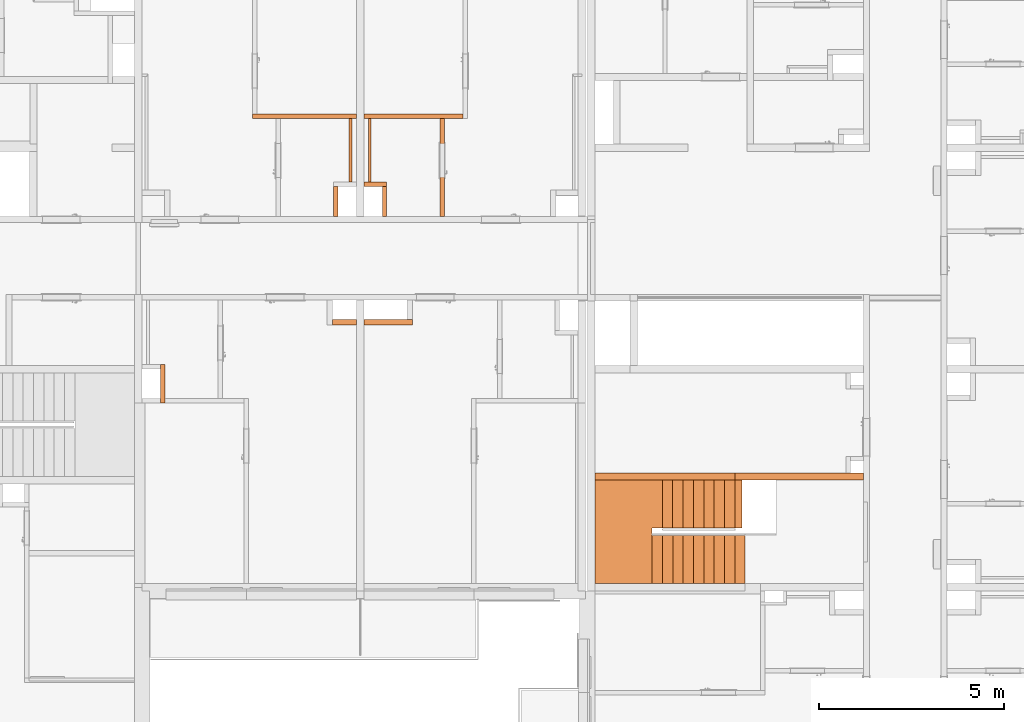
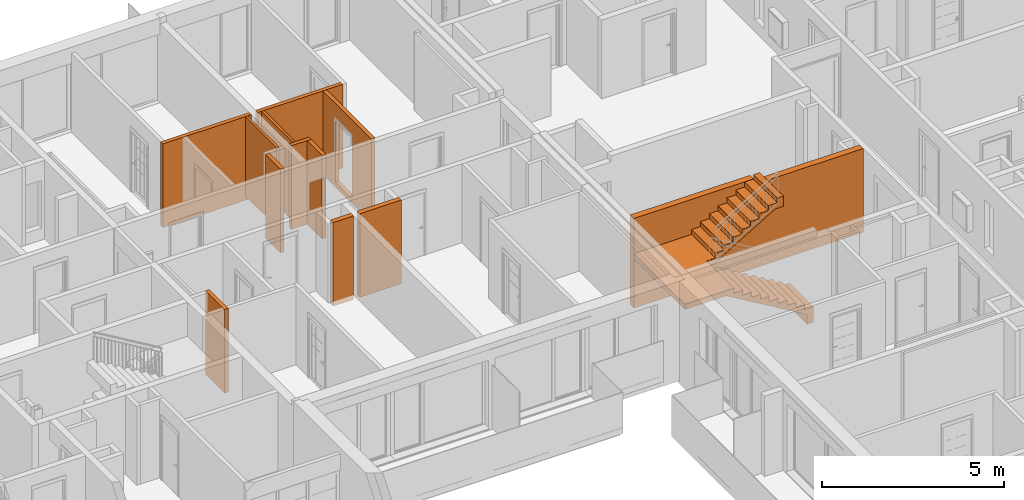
# One storey, part 60 of 67: 13 proxies, 1 opening.
"""IFC2X3 building model written with IfcOpenShell, lengths in millimetres."""

from ifc_helpers import new_model, entity, si_unit, converted_unit, derived_unit, money_unit, direction, frame, origin_with_axes, origin_2d_with_axis, place, context, subcontext, project, spatial, rectangle, extrude, faceted_brep, material, material_list, type_object, element, save


model = new_model("IFC2X3")

# Units and contexts
model_context = context("Model", 3, precision=0.01, world=origin_with_axes(), true_north=direction((0.34421633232, 0.938890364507)))
body_context = subcontext(model_context, "Body", "Model", "MODEL_VIEW")
ifc_project = project(units=[si_unit("LENGTHUNIT", "METRE", prefix="MILLI"), si_unit("AREAUNIT", "SQUARE_METRE"), si_unit("VOLUMEUNIT", "CUBIC_METRE"), converted_unit("PLANEANGLEUNIT", "DEGREE", entity("IfcPlaneAngleMeasure", 0.0174532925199), si_unit("PLANEANGLEUNIT", "RADIAN"), dimensions=[0, 0, 0, 0, 0, 0, 0]), si_unit("SOLIDANGLEUNIT", "STERADIAN"), money_unit("USD"), converted_unit("TIMEUNIT", "Year", entity("IfcTimeMeasure", 31556926.0), si_unit("TIMEUNIT", "SECOND"), dimensions=[0, 0, 1, 0, 0, 0, 0]), si_unit("MASSUNIT", "GRAM", prefix="KILO"), si_unit("THERMODYNAMICTEMPERATUREUNIT", "DEGREE_CELSIUS"), si_unit("LUMINOUSINTENSITYUNIT", "LUMEN"), si_unit("ENERGYUNIT", "JOULE", prefix="MEGA"), derived_unit("THERMALCONDUCTANCEUNIT", [(si_unit("POWERUNIT", "WATT"), 1), (si_unit("LENGTHUNIT", "METRE"), -1), (si_unit("THERMODYNAMICTEMPERATUREUNIT", "KELVIN"), -1)]), derived_unit("SPECIFICHEATCAPACITYUNIT", [(si_unit("ENERGYUNIT", "JOULE"), 1), (si_unit("MASSUNIT", "GRAM", prefix="KILO"), -1), (si_unit("THERMODYNAMICTEMPERATUREUNIT", "KELVIN"), -1)]), derived_unit("MASSDENSITYUNIT", [(si_unit("MASSUNIT", "GRAM", prefix="KILO"), 1), (si_unit("VOLUMEUNIT", "CUBIC_METRE"), -1)])], contexts=[model_context])

# Site, building, storey
site_placement = place(None, origin_with_axes())
site = spatial("IfcSite", under=ifc_project, at=site_placement, Name="USTRONIE MORSKIE", CompositionType="ELEMENT")
building_placement = place(site_placement, origin_with_axes())
building = spatial("IfcBuilding", under=site, at=building_placement, Name="Budynek", CompositionType="ELEMENT")
storey_placement = place(building_placement, frame((0.0, 0.0, 4000.0), z_axis=(0.0, 0.0, 1.0), x_axis=(1.0, 0.0, 0.0)))
storey = spatial("IfcBuildingStorey", under=building, at=storey_placement, Name="PIĘTRO 1", CompositionType="ELEMENT", Elevation=4000.0)

# Proxy
ifc_material_1 = material(Name="Bloczki silikatowe")
building_element_proxy_type_1 = type_object("IfcBuildingElementProxyType", Name="Bloczki silikatowe 120", PredefinedType="NOTDEFINED")
proxy_1_placement = place(storey_placement, frame((402317.920919, 739651.199937, -160.0), z_axis=(0.0, 0.0, 1.0), x_axis=(1.0, 0.0, 0.0)))
element("IfcBuildingElementProxy", 1, at=proxy_1_placement, inside=storey, type_object=building_element_proxy_type_1, material=ifc_material_1, Name="SW-04", context=body_context, shape_type="Brep", body=[
    faceted_brep([(2790.00713284, 59.9999999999, 0.0), (2790.00713284, -59.9999999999, 0.0), (100.0, -59.9999999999, 0.0), (100.0, 59.9999999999, 0.0), (2790.00713284, 59.9999999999, 2800.0), (2790.00713284, -59.9999999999, 2800.0), (100.0, -59.9999999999, 2800.0), (100.0, 59.9999999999, 2800.0)], [[[0, 1, 2, 3]], [[1, 0, 4, 5]], [[1, 5, 6, 2]], [[7, 3, 2, 6]], [[4, 0, 3, 7]], [[5, 4, 7, 6]]]),
])

# Proxy, opening
proxy_2_placement = place(storey_placement, frame((404537.920919, 739651.199937, -160.0), z_axis=(0.0, 0.0, 1.0), x_axis=(0.0, -1.0, 0.0)))
proxy_2 = element("IfcBuildingElementProxy", 2, at=proxy_2_placement, inside=storey, type_object=building_element_proxy_type_1, material=ifc_material_1, Name="SW-04", context=body_context, shape_type="Brep", body=[
    faceted_brep([(2720.00090117, 60.0, 0.0), (2720.00090117, -60.0, 0.0), (59.9999999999, -60.0, 0.0), (59.9999999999, 60.0, 0.0), (2720.00090117, 60.0, 2800.0), (2720.00090117, -60.0, 2800.0), (59.9999999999, -60.0, 2800.0), (59.9999999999, 60.0, 2800.0)], [[[0, 1, 2, 3]], [[1, 0, 4, 5]], [[1, 5, 6, 2]], [[7, 3, 2, 6]], [[4, 0, 3, 7]], [[5, 4, 7, 6]]]),
])
opening_placement = place(proxy_2_placement, frame((1200.00090117, 0.0, 160.0), z_axis=(0.0, 0.0, 1.0), x_axis=(1.0, 0.0, 0.0)))
element("IfcOpeningElement", 3, at=opening_placement, cuts=proxy_2, Name="Dw.4", context=body_context, shape_type="SweptSolid", body=[
    extrude(rectangle(XDim=920.0, YDim=2070.0, at=origin_2d_with_axis()), frame((0.0, -120.0, 1035.0), z_axis=(0.0, -1.0, 0.0), x_axis=(-1.0, 0.0, 0.0)), (0.0, 0.0, -1.0), 360.0),
    extrude(rectangle(XDim=994.0, YDim=2177.0, at=origin_2d_with_axis()), frame((0.0, -60.0, 1088.5), z_axis=(0.0, -1.0, 0.0), x_axis=(-1.0, 0.0, 0.0)), (0.0, 0.0, 1.0), 120.0),
    extrude(rectangle(XDim=994.0, YDim=2177.0, at=origin_2d_with_axis()), frame((0.0, 60.0, 1088.5), z_axis=(0.0, 1.0, 0.0), x_axis=(-1.0, 0.0, 0.0)), (0.0, 0.0, 1.0), 120.0),
])

# Proxies
proxy_3_placement = place(storey_placement, frame((399467.913786, 739651.199937, -160.0), z_axis=(0.0, 0.0, 1.0), x_axis=(1.0, 0.0, 0.0)))
element("IfcBuildingElementProxy", 4, at=proxy_3_placement, inside=storey, type_object=building_element_proxy_type_1, material=ifc_material_1, Name="SW-04", context=body_context, shape_type="Brep", body=[
    faceted_brep([(-60.0, -59.9999999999, 2800.0), (2750.00713284, -59.9999999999, 2800.0), (2750.00713284, 59.9999999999, 2800.0), (-60.0, 59.9999999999, 2800.0), (-60.0, -59.9999999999, 0.0), (2750.00713284, -59.9999999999, 0.0), (2750.00713284, 59.9999999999, 0.0), (-60.0, 59.9999999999, 0.0)], [[[0, 1, 2, 3]], [[4, 5, 1, 0]], [[5, 6, 2, 1]], [[3, 2, 6, 7]], [[3, 7, 4, 0]], [[7, 6, 5, 4]]]),
])
proxy_4_placement = place(storey_placement, frame((402317.920919, 737751.199937, -160.0), z_axis=(0.0, 0.0, 1.0), x_axis=(1.0, 0.0, 0.0)))
element("IfcBuildingElementProxy", 5, at=proxy_4_placement, inside=storey, type_object=building_element_proxy_type_1, material=ifc_material_1, Name="SW-04", context=body_context, shape_type="Brep", body=[
    faceted_brep([(720.0, 120.0, 0.0), (720.0, 0.0, 0.0), (100.0, 0.0, 0.0), (100.0, 120.0, 0.0), (720.0, 120.0, 2800.0), (720.0, 0.0, 2800.0), (100.0, 0.0, 2800.0), (100.0, 120.0, 2800.0)], [[[0, 1, 2, 3]], [[1, 0, 4, 5]], [[1, 5, 6, 2]], [[7, 3, 2, 6]], [[4, 0, 3, 7]], [[5, 4, 7, 6]]]),
])
proxy_5_placement = place(storey_placement, frame((401717.920919, 737751.199937, -160.0), z_axis=(0.0, 0.0, 1.0), x_axis=(0.0, -1.0, 0.0)))
element("IfcBuildingElementProxy", 6, at=proxy_5_placement, inside=storey, type_object=building_element_proxy_type_1, material=ifc_material_1, Name="SW-04", context=body_context, shape_type="Brep", body=[
    faceted_brep([(820.00090117, -120.0, 2800.0), (820.00090117, 0.0, 2800.0), (0.0, 0.0, 2800.0), (0.0, -120.0, 2800.0), (820.00090117, -120.0, 0.0), (820.00090117, 0.0, 0.0), (0.0, 0.0, 0.0), (0.0, -120.0, 0.0)], [[[0, 1, 2, 3]], [[1, 0, 4, 5]], [[1, 5, 6, 2]], [[7, 3, 2, 6]], [[4, 0, 3, 7]], [[5, 4, 7, 6]]]),
])
proxy_6_placement = place(storey_placement, frame((396917.929132, 731891.199132, -160.0), z_axis=(0.0, 0.0, 1.0), x_axis=(-3.11484010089e-05, 0.999999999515, 0.0)))
element("IfcBuildingElementProxy", 7, at=proxy_6_placement, inside=storey, type_object=building_element_proxy_type_1, material=ifc_material_1, Name="SW-04", context=body_context, shape_type="Brep", body=[
    faceted_brep([(1039.99738094, 0.0, 0.0), (1039.98990532, -120.0, 0.0), (-0.00373780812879, -120.0, 0.0), (0.0, 0.0, 0.0), (1039.99738094, 0.0, 2800.0), (1039.98990532, -120.0, 2800.0), (-0.00373780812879, -120.0, 2800.0), (0.0, 0.0, 2800.0)], [[[0, 1, 2, 3]], [[1, 0, 4, 5]], [[1, 5, 6, 2]], [[7, 3, 2, 6]], [[4, 0, 3, 7]], [[5, 4, 7, 6]]]),
])
proxy_7_placement = place(storey_placement, frame((402917.920919, 737751.199937, -160.0), z_axis=(0.0, 0.0, 1.0), x_axis=(0.0, -1.0, 0.0)))
element("IfcBuildingElementProxy", 8, at=proxy_7_placement, inside=storey, type_object=building_element_proxy_type_1, material=ifc_material_1, Name="SW-04", context=body_context, shape_type="Brep", body=[
    faceted_brep([(820.00090117, 120.0, 0.0), (820.00090117, 0.0, 0.0), (0.0, 0.0, 0.0), (0.0, 120.0, 0.0), (820.00090117, 120.0, 2800.0), (820.00090117, 0.0, 2800.0), (0.0, 0.0, 2800.0), (0.0, 120.0, 2800.0)], [[[0, 1, 2, 3]], [[1, 0, 4, 5]], [[1, 5, 6, 2]], [[7, 3, 2, 6]], [[4, 0, 3, 7]], [[5, 4, 7, 6]]]),
])
ifc_material_2 = material(Name="Beton konstrukcyjny B25")
ifc_material_3 = material(Name="Płytki podłogowe")
ifc_material_list_1 = material_list([ifc_material_2, ifc_material_2, ifc_material_2, ifc_material_3, ifc_material_3, ifc_material_3, ifc_material_3, ifc_material_3, ifc_material_3, ifc_material_3, ifc_material_3, ifc_material_3, ifc_material_3, ifc_material_3, ifc_material_3, ifc_material_3, ifc_material_3, ifc_material_3, ifc_material_3, ifc_material_3])
building_element_proxy_type_2 = type_object("IfcBuildingElementProxyType", Name="Typ schodów", PredefinedType="NOTDEFINED")
proxy_8_placement = place(storey_placement, frame((412739.660049, 727001.198948, 0.0), z_axis=(0.0, 0.0, 1.0), x_axis=(-1.0, 0.0, 0.0)))
element("IfcBuildingElementProxy", 9, at=proxy_8_placement, inside=storey, type_object=building_element_proxy_type_2, material=ifc_material_list_1, Name="SCH2", context=body_context, shape_type="Brep", body=[
    faceted_brep([(2520.00002021, -1299.99999404, 1485.0), (2520.00002021, 0.0, 1485.0), (2240.0, 0.0, 1485.0), (2240.0, -1300.0, 1485.0), (2520.00002021, -1299.99999404, 1491.66666667), (2520.00002021, 0.0, 1491.66666667), (2520.00002021, 0.0, 1345.35030449), (2426.66666667, 0.0, 1289.7947369), (2333.33333333, 0.0, 1234.23918135), (2240.0, 0.0, 1178.68362579), (2146.66666667, 0.0, 1123.12807024), (2053.33333333, 0.0, 1067.57251468), (1960.0, 0.0, 1012.01695913), (1866.66666667, 0.0, 956.46140357), (1773.33333333, 0.0, 900.905848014), (1680.0, 0.0, 845.350292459), (1586.66666667, 0.0, 789.794736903), (1493.33333333, 0.0, 734.239181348), (1400.0, 0.0, 678.683625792), (1306.66666667, 0.0, 623.128070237), (1213.33333333, 0.0, 567.572514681), (1120.0, 0.0, 512.016959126), (1026.66666667, 0.0, 456.46140357), (933.333333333, 0.0, 400.905848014), (840.0, 0.0, 345.350292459), (746.666666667, 0.0, 289.794736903), (653.333333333, 0.0, 234.239181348), (560.0, 0.0, 178.683625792), (466.666666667, 0.0, 123.128070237), (373.333333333, 0.0, 67.5725146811), (280.0, 0.0, 12.0169591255), (200.0, 0.0, -35.6020884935), (200.0, 0.0, -360.0), (0.0, 0.0, -360.0), (0.0, 0.0, -154.649707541), (0.0, 0.0, 151.666666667), (280.0, 0.0, 151.666666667), (280.0, 0.0, 318.333333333), (560.0, 0.0, 318.333333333), (560.0, 0.0, 485.0), (840.0, 0.0, 485.0), (840.0, 0.0, 651.666666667), (1120.0, 0.0, 651.666666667), (1120.0, 0.0, 818.333333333), (1400.0, 0.0, 818.333333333), (1400.0, 0.0, 985.0), (1680.0, 0.0, 985.0), (1680.0, 0.0, 1151.66666667), (1960.0, 0.0, 1151.66666667), (1960.0, 0.0, 1318.33333333), (2240.0, 0.0, 1318.33333333), (2765.81150867, 0.0, 1491.66666667), (2240.0, -1300.0, 1318.33333333), (1960.0, -1300.0, 1318.33333333), (1960.0, -1300.0, 1151.66666667), (1680.0, -1300.0, 1151.66666667), (1680.0, -1300.0, 985.0), (1400.0, -1300.0, 985.0), (1400.0, -1300.0, 818.333333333), (1120.0, -1300.0, 818.333333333), (1120.0, -1300.0, 651.666666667), (840.0, -1300.0, 651.666666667), (840.0, -1300.0, 485.0), (560.0, -1300.0, 485.0), (560.0, -1300.0, 318.333333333), (280.0, -1300.0, 318.333333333), (280.0, -1300.0, 151.666666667), (0.0, -1300.0, 151.666666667), (0.0, -1300.0, -154.649707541), (0.0, -1300.0, -360.0), (200.0, -1300.0, -360.0), (200.0, -1300.0, -35.6020884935), (280.0, -1300.0, 12.0169591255), (373.333333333, -1300.0, 67.5725146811), (466.666666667, -1300.0, 123.128070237), (560.0, -1300.0, 178.683625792), (653.333333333, -1300.0, 234.239181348), (746.666666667, -1300.0, 289.794736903), (840.0, -1300.0, 345.350292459), (933.333333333, -1300.0, 400.905848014), (1026.66666667, -1300.0, 456.46140357), (1120.0, -1300.0, 512.016959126), (1213.33333333, -1300.0, 567.572514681), (1306.66666667, -1300.0, 623.128070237), (1400.0, -1300.0, 678.683625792), (1493.33333333, -1300.0, 734.239181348), (1586.66666667, -1300.0, 789.794736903), (1680.0, -1300.0, 845.350292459), (1773.33333333, -1300.0, 900.905848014), (1866.66666667, -1300.0, 956.46140357), (1960.0, -1300.0, 1012.01695913), (2053.33333333, -1300.0, 1067.57251468), (2146.66666667, -1300.0, 1123.12807024), (2240.0, -1300.0, 1178.68362579), (2333.33333333, -1300.0, 1234.23918135), (2426.66666667, -1300.0, 1289.7947369), (2520.00002021, -1299.99999404, 1345.35030449), (2765.81150867, -1299.99999404, 1491.66666667)], [[[0, 1, 2, 3]], [[1, 0, 4, 5]], [[6, 7, 8, 9, 10, 11, 12, 13, 14, 15, 16, 17, 18, 19, 20, 21, 22, 23, 24, 25, 26, 27, 28, 29, 30, 31, 32, 33, 34, 35, 36, 37, 38, 39, 40, 41, 42, 43, 44, 45, 46, 47, 48, 49, 50, 2, 1, 5, 51]], [[52, 3, 2, 50]], [[0, 3, 52, 53, 54, 55, 56, 57, 58, 59, 60, 61, 62, 63, 64, 65, 66, 67, 68, 69, 70, 71, 72, 73, 74, 75, 76, 77, 78, 79, 80, 81, 82, 83, 84, 85, 86, 87, 88, 89, 90, 91, 92, 93, 94, 95, 96, 97, 4]], [[51, 5, 4, 97]], [[96, 95, 7, 6, 51, 97]], [[95, 94, 8, 7]], [[94, 93, 9, 8]], [[93, 92, 10, 9]], [[92, 91, 11, 10]], [[91, 90, 12, 11]], [[90, 89, 13, 12]], [[89, 88, 14, 13]], [[88, 87, 15, 14]], [[87, 86, 16, 15]], [[86, 85, 17, 16]], [[85, 84, 18, 17]], [[84, 83, 19, 18]], [[83, 82, 20, 19]], [[82, 81, 21, 20]], [[81, 80, 22, 21]], [[80, 79, 23, 22]], [[79, 78, 24, 23]], [[78, 77, 25, 24]], [[77, 76, 26, 25]], [[76, 75, 27, 26]], [[75, 74, 28, 27]], [[74, 73, 29, 28]], [[73, 72, 30, 29]], [[72, 71, 31, 30]], [[32, 31, 71, 70]], [[32, 70, 69, 33]], [[69, 68, 34, 33]], [[35, 34, 68, 67]], [[36, 35, 67, 66]], [[66, 65, 37, 36]], [[38, 37, 65, 64]], [[64, 63, 39, 38]], [[40, 39, 63, 62]], [[62, 61, 41, 40]], [[42, 41, 61, 60]], [[60, 59, 43, 42]], [[44, 43, 59, 58]], [[58, 57, 45, 44]], [[46, 45, 57, 56]], [[56, 55, 47, 46]], [[48, 47, 55, 54]], [[54, 53, 49, 48]], [[50, 49, 53, 52]]]),
    faceted_brep([(2275.92762177, -1500.00000596, 1491.66666667), (2275.92762177, -1500.00000596, 1651.66666667), (2521.73913043, -1500.00000596, 1651.66666667), (2521.73913043, -1500.00000596, 1491.66666667), (2275.92762177, -2800.0, 1651.66666667), (2275.92762177, -2800.0, 1491.66666667), (4071.73911851, -2800.0, 1651.66666667), (4071.73911851, 0.0, 1651.66666667), (2520.00002021, 0.0, 1651.66666667), (2520.00002021, -1299.99999404, 1651.66666667), (2521.73913043, -1299.99999404, 1651.66666667), (2521.73913043, -1299.99999404, 1491.66666667), (2520.00002021, -1299.99999404, 1491.66666667), (2520.00002021, 0.0, 1491.66666667), (4071.73911851, 0.0, 1491.66666667), (4071.73911851, -2800.0, 1491.66666667)], [[[0, 1, 2, 3]], [[4, 1, 0, 5]], [[1, 4, 6, 7, 8, 9, 10, 2]], [[10, 11, 3, 2]], [[5, 0, 3, 11, 12, 13, 14, 15]], [[4, 5, 15, 6]], [[6, 15, 14, 7]], [[7, 14, 13, 8]], [[8, 13, 12, 9]], [[9, 12, 11, 10]]]),
    faceted_brep([(375.072463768, -2800.0, 2623.12807024), (346.727621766, -2800.0, 2640.0), (346.727621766, -1500.0, 2640.0), (375.072463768, -1500.0, 2623.12807024), (81.7391304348, -2800.0, 2640.0), (468.405797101, -2800.0, 2567.57251468), (561.739130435, -2800.0, 2512.01695913), (655.072463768, -2800.0, 2456.46140357), (748.405797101, -2800.0, 2400.90584801), (841.739130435, -2800.0, 2345.35029246), (935.072463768, -2800.0, 2289.7947369), (1028.4057971, -2800.0, 2234.23918135), (1121.73913043, -2800.0, 2178.68362579), (1215.07246377, -2800.0, 2123.12807024), (1308.4057971, -2800.0, 2067.57251468), (1401.73913043, -2800.0, 2012.01695913), (1495.07246377, -2800.0, 1956.46140357), (1588.4057971, -2800.0, 1900.90584801), (1681.73913043, -2800.0, 1845.35029246), (1775.07246377, -2800.0, 1789.7947369), (1868.4057971, -2800.0, 1734.23918135), (1961.73913043, -2800.0, 1678.68362579), (2055.07246377, -2800.0, 1623.12807024), (2148.4057971, -2800.0, 1567.57251468), (2241.73913043, -2800.0, 1512.01695913), (2275.92762177, -2800.0, 1491.66666667), (2275.92762177, -2800.0, 1651.66666667), (2241.73913043, -2800.0, 1651.66666667), (2241.73913043, -2800.0, 1818.33333333), (1961.73913043, -2800.0, 1818.33333333), (1961.73913043, -2800.0, 1985.0), (1681.73913043, -2800.0, 1985.0), (1681.73913043, -2800.0, 2151.66666667), (1401.73913043, -2800.0, 2151.66666667), (1401.73913043, -2800.0, 2318.33333333), (1121.73913043, -2800.0, 2318.33333333), (1121.73913043, -2800.0, 2485.0), (841.739130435, -2800.0, 2485.0), (841.739130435, -2800.0, 2651.66666667), (561.739130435, -2800.0, 2651.66666667), (561.739130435, -2800.0, 2818.33333333), (281.739130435, -2800.0, 2818.33333333), (281.739130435, -2800.0, 2985.0), (81.7391304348, -2800.0, 2985.0), (81.7391304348, -1500.0, 2640.0), (81.7391304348, -1500.0, 2985.0), (281.739130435, -1500.0, 2985.0), (281.739130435, -1500.0, 2818.33333333), (561.739130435, -1500.0, 2818.33333333), (561.739130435, -1500.0, 2651.66666667), (841.739130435, -1500.0, 2651.66666667), (841.739130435, -1500.0, 2485.0), (1121.73913043, -1500.0, 2485.0), (1121.73913043, -1500.0, 2318.33333333), (1401.73913043, -1500.0, 2318.33333333), (1401.73913043, -1500.0, 2151.66666667), (1681.73913043, -1500.0, 2151.66666667), (1681.73913043, -1500.0, 1985.0), (1961.73913043, -1500.0, 1985.0), (1961.73913043, -1500.0, 1818.33333333), (2241.73913043, -1500.0, 1818.33333333), (2241.73913043, -1500.00000596, 1651.66666667), (2275.92762177, -1500.00000596, 1651.66666667), (2275.92762177, -1500.00000596, 1491.66666667), (2241.73913043, -1500.00000596, 1512.01695913), (2148.4057971, -1500.0, 1567.57251468), (2055.07246377, -1500.0, 1623.12807024), (1961.73913043, -1500.0, 1678.68362579), (1868.4057971, -1500.0, 1734.23918135), (1775.07246377, -1500.0, 1789.7947369), (1681.73913043, -1500.0, 1845.35029246), (1588.4057971, -1500.0, 1900.90584801), (1495.07246377, -1500.0, 1956.46140357), (1401.73913043, -1500.0, 2012.01695913), (1308.4057971, -1500.0, 2067.57251468), (1215.07246377, -1500.0, 2123.12807024), (1121.73913043, -1500.0, 2178.68362579), (1028.4057971, -1500.0, 2234.23918135), (935.072463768, -1500.0, 2289.7947369), (841.739130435, -1500.0, 2345.35029246), (748.405797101, -1500.0, 2400.90584801), (655.072463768, -1500.0, 2456.46140357), (561.739130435, -1500.0, 2512.01695913), (468.405797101, -1500.0, 2567.57251468)], [[[0, 1, 2, 3]], [[4, 1, 0, 5, 6, 7, 8, 9, 10, 11, 12, 13, 14, 15, 16, 17, 18, 19, 20, 21, 22, 23, 24, 25, 26, 27, 28, 29, 30, 31, 32, 33, 34, 35, 36, 37, 38, 39, 40, 41, 42, 43]], [[44, 2, 1, 4]], [[3, 2, 44, 45, 46, 47, 48, 49, 50, 51, 52, 53, 54, 55, 56, 57, 58, 59, 60, 61, 62, 63, 64, 65, 66, 67, 68, 69, 70, 71, 72, 73, 74, 75, 76, 77, 78, 79, 80, 81, 82, 83]], [[83, 5, 0, 3]], [[82, 6, 5, 83]], [[81, 7, 6, 82]], [[80, 8, 7, 81]], [[79, 9, 8, 80]], [[78, 10, 9, 79]], [[77, 11, 10, 78]], [[76, 12, 11, 77]], [[75, 13, 12, 76]], [[74, 14, 13, 75]], [[73, 15, 14, 74]], [[72, 16, 15, 73]], [[71, 17, 16, 72]], [[70, 18, 17, 71]], [[69, 19, 18, 70]], [[68, 20, 19, 69]], [[67, 21, 20, 68]], [[66, 22, 21, 67]], [[65, 23, 22, 66]], [[23, 65, 64, 24]], [[63, 25, 24, 64]], [[26, 25, 63, 62]], [[26, 62, 61, 27]], [[60, 28, 27, 61]], [[59, 29, 28, 60]], [[29, 59, 58, 30]], [[57, 31, 30, 58]], [[31, 57, 56, 32]], [[55, 33, 32, 56]], [[33, 55, 54, 34]], [[53, 35, 34, 54]], [[35, 53, 52, 36]], [[51, 37, 36, 52]], [[37, 51, 50, 38]], [[49, 39, 38, 50]], [[39, 49, 48, 40]], [[48, 47, 41, 40]], [[42, 41, 47, 46]], [[42, 46, 45, 43]], [[4, 43, 45, 44]]]),
    faceted_brep([(0.0, 0.0, 156.666666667), (0.0, -1300.0, 156.666666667), (0.0, -1300.0, 166.666666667), (0.0, 0.0, 166.666666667), (280.0, 0.0, 156.666666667), (280.0, -1300.0, 156.666666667), (280.0, -1300.0, 166.666666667), (280.0, 0.0, 166.666666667)], [[[0, 1, 2, 3]], [[0, 4, 5, 1]], [[1, 5, 6, 2]], [[3, 2, 6, 7]], [[4, 0, 3, 7]], [[5, 4, 7, 6]]]),
    faceted_brep([(280.0, 0.0, 323.333333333), (280.0, -1300.0, 323.333333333), (280.0, -1300.0, 333.333333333), (280.0, 0.0, 333.333333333), (560.0, 0.0, 323.333333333), (560.0, -1300.0, 323.333333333), (560.0, -1300.0, 333.333333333), (560.0, 0.0, 333.333333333)], [[[0, 1, 2, 3]], [[0, 4, 5, 1]], [[1, 5, 6, 2]], [[3, 2, 6, 7]], [[4, 0, 3, 7]], [[5, 4, 7, 6]]]),
    faceted_brep([(560.0, 0.0, 490.0), (560.0, -1300.0, 490.0), (560.0, -1300.0, 500.0), (560.0, 0.0, 500.0), (840.0, 0.0, 490.0), (840.0, -1300.0, 490.0), (840.0, -1300.0, 500.0), (840.0, 0.0, 500.0)], [[[0, 1, 2, 3]], [[0, 4, 5, 1]], [[1, 5, 6, 2]], [[3, 2, 6, 7]], [[4, 0, 3, 7]], [[5, 4, 7, 6]]]),
    faceted_brep([(840.0, 0.0, 656.666666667), (840.0, -1300.0, 656.666666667), (840.0, -1300.0, 666.666666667), (840.0, 0.0, 666.666666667), (1120.0, 0.0, 656.666666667), (1120.0, -1300.0, 656.666666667), (1120.0, -1300.0, 666.666666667), (1120.0, 0.0, 666.666666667)], [[[0, 1, 2, 3]], [[0, 4, 5, 1]], [[1, 5, 6, 2]], [[3, 2, 6, 7]], [[4, 0, 3, 7]], [[5, 4, 7, 6]]]),
    faceted_brep([(1120.0, 0.0, 823.333333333), (1120.0, -1300.0, 823.333333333), (1120.0, -1300.0, 833.333333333), (1120.0, 0.0, 833.333333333), (1400.0, 0.0, 823.333333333), (1400.0, -1300.0, 823.333333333), (1400.0, -1300.0, 833.333333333), (1400.0, 0.0, 833.333333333)], [[[0, 1, 2, 3]], [[0, 4, 5, 1]], [[1, 5, 6, 2]], [[3, 2, 6, 7]], [[4, 0, 3, 7]], [[5, 4, 7, 6]]]),
    faceted_brep([(1400.0, 0.0, 990.0), (1400.0, -1300.0, 990.0), (1400.0, -1300.0, 1000.0), (1400.0, 0.0, 1000.0), (1680.0, 0.0, 990.0), (1680.0, -1300.0, 990.0), (1680.0, -1300.0, 1000.0), (1680.0, 0.0, 1000.0)], [[[0, 1, 2, 3]], [[0, 4, 5, 1]], [[1, 5, 6, 2]], [[3, 2, 6, 7]], [[4, 0, 3, 7]], [[5, 4, 7, 6]]]),
    faceted_brep([(1680.0, 0.0, 1156.66666667), (1680.0, -1300.0, 1156.66666667), (1680.0, -1300.0, 1166.66666667), (1680.0, 0.0, 1166.66666667), (1960.0, 0.0, 1156.66666667), (1960.0, -1300.0, 1156.66666667), (1960.0, -1300.0, 1166.66666667), (1960.0, 0.0, 1166.66666667)], [[[0, 1, 2, 3]], [[0, 4, 5, 1]], [[1, 5, 6, 2]], [[3, 2, 6, 7]], [[4, 0, 3, 7]], [[5, 4, 7, 6]]]),
    faceted_brep([(1960.0, 0.0, 1323.33333333), (1960.0, -1300.0, 1323.33333333), (1960.0, -1300.0, 1333.33333333), (1960.0, 0.0, 1333.33333333), (2240.0, 0.0, 1323.33333333), (2240.0, -1300.0, 1323.33333333), (2240.0, -1300.0, 1333.33333333), (2240.0, 0.0, 1333.33333333)], [[[0, 1, 2, 3]], [[0, 4, 5, 1]], [[1, 5, 6, 2]], [[3, 2, 6, 7]], [[4, 0, 3, 7]], [[5, 4, 7, 6]]]),
    faceted_brep([(2240.0, 0.0, 1490.0), (2240.0, -1300.0, 1490.0), (2240.0, -1300.0, 1500.0), (2240.0, 0.0, 1500.0), (2520.0, 0.0, 1490.0), (2520.0, -1300.0, 1490.0), (2520.0, -1300.0, 1500.0), (2520.0, 0.0, 1500.0)], [[[0, 1, 2, 3]], [[0, 4, 5, 1]], [[1, 5, 6, 2]], [[3, 2, 6, 7]], [[4, 0, 3, 7]], [[5, 4, 7, 6]]]),
    faceted_brep([(2521.73913043, -1500.00000596, 1656.66666667), (2241.73913043, -1500.00000596, 1656.66666667), (2241.73913043, -1500.00000596, 1666.66666667), (2521.73913043, -1500.00000596, 1666.66666667), (2521.73913043, -1299.99999404, 1656.66666667), (2520.00002021, -1299.99999404, 1656.66666667), (2520.00002021, 0.0, 1656.66666667), (2521.73913043, 0.0, 1656.66666667), (4071.73911851, 0.0, 1656.66666667), (4071.73911851, -2800.0, 1656.66666667), (2521.73913043, -2800.0, 1656.66666667), (2241.73913043, -2800.0, 1656.66666667), (2241.73913043, -2800.0, 1666.66666667), (2521.73913043, -2800.0, 1666.66666667), (4071.73911851, -2800.0, 1666.66666667), (4071.73911851, 0.0, 1666.66666667), (2521.73913043, 0.0, 1666.66666667), (2520.00002021, 0.0, 1666.66666667), (2520.00002021, -1299.99999404, 1666.66666667), (2521.73913043, -1299.99999404, 1666.66666667)], [[[0, 1, 2, 3]], [[0, 4, 5, 6, 7, 8, 9, 10, 11, 1]], [[1, 11, 12, 2]], [[3, 2, 12, 13, 14, 15, 16, 17, 18, 19]], [[4, 0, 3, 19]], [[5, 4, 19, 18]], [[6, 5, 18, 17]], [[7, 6, 17, 16]], [[8, 7, 16, 15]], [[9, 8, 15, 14]], [[10, 9, 14, 13]], [[11, 10, 13, 12]]]),
    faceted_brep([(2241.73913043, -2800.0, 1823.33333333), (2241.73913043, -1500.0, 1823.33333333), (2241.73913043, -1500.0, 1833.33333333), (2241.73913043, -2800.0, 1833.33333333), (1961.73913043, -2800.0, 1823.33333333), (1961.73913043, -1500.0, 1823.33333333), (1961.73913043, -1500.0, 1833.33333333), (1961.73913043, -2800.0, 1833.33333333)], [[[0, 1, 2, 3]], [[0, 4, 5, 1]], [[1, 5, 6, 2]], [[3, 2, 6, 7]], [[4, 0, 3, 7]], [[5, 4, 7, 6]]]),
    faceted_brep([(1961.73913043, -2800.0, 1990.0), (1961.73913043, -1500.0, 1990.0), (1961.73913043, -1500.0, 2000.0), (1961.73913043, -2800.0, 2000.0), (1681.73913043, -2800.0, 1990.0), (1681.73913043, -1500.0, 1990.0), (1681.73913043, -1500.0, 2000.0), (1681.73913043, -2800.0, 2000.0)], [[[0, 1, 2, 3]], [[0, 4, 5, 1]], [[1, 5, 6, 2]], [[3, 2, 6, 7]], [[4, 0, 3, 7]], [[5, 4, 7, 6]]]),
    faceted_brep([(1681.73913043, -2800.0, 2156.66666667), (1681.73913043, -1500.0, 2156.66666667), (1681.73913043, -1500.0, 2166.66666667), (1681.73913043, -2800.0, 2166.66666667), (1401.73913043, -2800.0, 2156.66666667), (1401.73913043, -1500.0, 2156.66666667), (1401.73913043, -1500.0, 2166.66666667), (1401.73913043, -2800.0, 2166.66666667)], [[[0, 1, 2, 3]], [[0, 4, 5, 1]], [[1, 5, 6, 2]], [[3, 2, 6, 7]], [[4, 0, 3, 7]], [[5, 4, 7, 6]]]),
    faceted_brep([(1401.73913043, -2800.0, 2323.33333333), (1401.73913043, -1500.0, 2323.33333333), (1401.73913043, -1500.0, 2333.33333333), (1401.73913043, -2800.0, 2333.33333333), (1121.73913043, -2800.0, 2323.33333333), (1121.73913043, -1500.0, 2323.33333333), (1121.73913043, -1500.0, 2333.33333333), (1121.73913043, -2800.0, 2333.33333333)], [[[0, 1, 2, 3]], [[0, 4, 5, 1]], [[1, 5, 6, 2]], [[3, 2, 6, 7]], [[4, 0, 3, 7]], [[5, 4, 7, 6]]]),
    faceted_brep([(1121.73913043, -2800.0, 2490.0), (1121.73913043, -1500.0, 2490.0), (1121.73913043, -1500.0, 2500.0), (1121.73913043, -2800.0, 2500.0), (841.739130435, -2800.0, 2490.0), (841.739130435, -1500.0, 2490.0), (841.739130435, -1500.0, 2500.0), (841.739130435, -2800.0, 2500.0)], [[[0, 1, 2, 3]], [[0, 4, 5, 1]], [[1, 5, 6, 2]], [[3, 2, 6, 7]], [[4, 0, 3, 7]], [[5, 4, 7, 6]]]),
    faceted_brep([(841.739130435, -2800.0, 2656.66666667), (841.739130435, -1500.0, 2656.66666667), (841.739130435, -1500.0, 2666.66666667), (841.739130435, -2800.0, 2666.66666667), (561.739130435, -2800.0, 2656.66666667), (561.739130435, -1500.0, 2656.66666667), (561.739130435, -1500.0, 2666.66666667), (561.739130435, -2800.0, 2666.66666667)], [[[0, 1, 2, 3]], [[0, 4, 5, 1]], [[1, 5, 6, 2]], [[3, 2, 6, 7]], [[4, 0, 3, 7]], [[5, 4, 7, 6]]]),
    faceted_brep([(561.739130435, -2800.0, 2823.33333333), (561.739130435, -1500.0, 2823.33333333), (561.739130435, -1500.0, 2833.33333333), (561.739130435, -2800.0, 2833.33333333), (281.739130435, -2800.0, 2823.33333333), (281.739130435, -1500.0, 2823.33333333), (281.739130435, -1500.0, 2833.33333333), (281.739130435, -2800.0, 2833.33333333)], [[[0, 1, 2, 3]], [[0, 4, 5, 1]], [[1, 5, 6, 2]], [[3, 2, 6, 7]], [[4, 0, 3, 7]], [[5, 4, 7, 6]]]),
])
ifc_material_4 = material(Name="Płyta GK")
ifc_material_5 = material(Name="-Pustka powietrzna")
ifc_material_list_2 = material_list([ifc_material_4, ifc_material_4, ifc_material_5])
building_element_proxy_type_3 = type_object("IfcBuildingElementProxyType", Name="330-SD GK 2-warstwy 75", PredefinedType="NOTDEFINED")
proxy_9_placement = place(storey_placement, frame((402562.908566, 739651.199937, -180.0), z_axis=(0.0, 0.0, 1.0), x_axis=(0.0, -1.0, 0.0)))
element("IfcBuildingElementProxy", 10, at=proxy_9_placement, inside=storey, type_object=building_element_proxy_type_3, material=ifc_material_list_2, Name="Ściana-009", context=body_context, shape_type="Brep", body=[
    faceted_brep([(1780.0, 50.0, 165.0), (59.9999999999, 50.0, 165.0), (59.9999999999, 50.0, 2820.0), (1780.0, 50.0, 2820.0), (59.9999999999, 37.5, 165.0), (1780.0, 37.5, 165.0), (59.9999999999, 37.5, 2820.0), (1780.0, 37.5, 2820.0)], [[[0, 1, 2, 3]], [[4, 1, 0, 5]], [[1, 4, 6, 2]], [[6, 7, 3, 2]], [[5, 0, 3, 7]], [[4, 5, 7, 6]]]),
    faceted_brep([(1780.0, 37.5, 165.0), (59.9999999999, 37.5, 165.0), (59.9999999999, 37.5, 2820.0), (1780.0, 37.5, 2820.0), (59.9999999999, 25.0, 165.0), (1780.0, 25.0, 165.0), (59.9999999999, 25.0, 2820.0), (1780.0, 25.0, 2820.0)], [[[0, 1, 2, 3]], [[4, 1, 0, 5]], [[1, 4, 6, 2]], [[6, 7, 3, 2]], [[5, 0, 3, 7]], [[4, 5, 7, 6]]]),
    faceted_brep([(1780.0, 25.0, 180.0), (59.9999999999, 25.0, 180.0), (59.9999999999, 25.0, 2820.0), (1780.0, 25.0, 2820.0), (59.9999999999, -25.0, 180.0), (1780.0, -25.0, 180.0), (59.9999999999, -25.0, 2820.0), (1780.0, -25.0, 2820.0)], [[[0, 1, 2, 3]], [[4, 1, 0, 5]], [[1, 4, 6, 2]], [[6, 7, 3, 2]], [[5, 0, 3, 7]], [[4, 5, 7, 6]]]),
])
ifc_material_list_3 = material_list([ifc_material_5, ifc_material_4, ifc_material_4])
proxy_10_placement = place(storey_placement, frame((402072.933272, 739651.199937, -180.0), z_axis=(0.0, 0.0, 1.0), x_axis=(0.0, -1.0, 0.0)))
element("IfcBuildingElementProxy", 11, at=proxy_10_placement, inside=storey, type_object=building_element_proxy_type_3, material=ifc_material_list_3, Name="Ściana-009", context=body_context, shape_type="Brep", body=[
    faceted_brep([(1780.0, 25.0, 180.0), (59.9999999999, 25.0, 180.0), (59.9999999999, 25.0, 2820.0), (1780.0, 25.0, 2820.0), (59.9999999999, -25.0, 180.0), (1780.0, -25.0, 180.0), (59.9999999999, -25.0, 2820.0), (1780.0, -25.0, 2820.0)], [[[0, 1, 2, 3]], [[4, 1, 0, 5]], [[1, 4, 6, 2]], [[6, 7, 3, 2]], [[5, 0, 3, 7]], [[4, 5, 7, 6]]]),
    faceted_brep([(1780.0, -25.0, 165.0), (59.9999999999, -25.0, 165.0), (59.9999999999, -25.0, 2820.0), (1780.0, -25.0, 2820.0), (59.9999999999, -37.5, 165.0), (1780.0, -37.5, 165.0), (59.9999999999, -37.5, 2820.0), (1780.0, -37.5, 2820.0)], [[[0, 1, 2, 3]], [[4, 1, 0, 5]], [[1, 4, 6, 2]], [[6, 7, 3, 2]], [[5, 0, 3, 7]], [[4, 5, 7, 6]]]),
    faceted_brep([(1780.0, -37.5, 165.0), (59.9999999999, -37.5, 165.0), (59.9999999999, -37.5, 2820.0), (1780.0, -37.5, 2820.0), (59.9999999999, -50.0, 165.0), (1780.0, -50.0, 165.0), (59.9999999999, -50.0, 2820.0), (1780.0, -50.0, 2820.0)], [[[0, 1, 2, 3]], [[4, 1, 0, 5]], [[1, 4, 6, 2]], [[6, 7, 3, 2]], [[5, 0, 3, 7]], [[4, 5, 7, 6]]]),
])
building_element_proxy_type_4 = type_object("IfcBuildingElementProxyType", Name="Bloczki silikatowe 150", PredefinedType="NOTDEFINED")
proxy_11_placement = place(storey_placement, frame((403587.872717, 734151.201884, -160.0), z_axis=(0.0, 0.0, 1.0), x_axis=(-1.0, 0.0, 0.0)))
element("IfcBuildingElementProxy", 12, at=proxy_11_placement, inside=storey, type_object=building_element_proxy_type_4, material=ifc_material_1, Name="SW-03", context=body_context, shape_type="Brep", body=[
    faceted_brep([(-150.0, 0.0, 0.0), (1169.9517982, 0.0, 0.0), (1169.9517982, 0.0, 2800.0), (-150.0, 0.0, 2800.0), (-150.0, 150.0, 0.0), (1169.9517982, 150.0, 0.0), (1169.9517982, 150.0, 2800.0), (-150.0, 150.0, 2800.0)], [[[0, 1, 2, 3]], [[4, 5, 1, 0]], [[5, 6, 2, 1]], [[3, 2, 6, 7]], [[0, 3, 7, 4]], [[7, 6, 5, 4]]]),
])
proxy_12_placement = place(storey_placement, frame((401567.772717, 734151.201884, -160.0), z_axis=(0.0, 0.0, 1.0), x_axis=(1.0, 0.0, 0.0)))
element("IfcBuildingElementProxy", 13, at=proxy_12_placement, inside=storey, type_object=building_element_proxy_type_4, material=ifc_material_1, Name="SW-03", context=body_context, shape_type="Brep", body=[
    faceted_brep([(650.148201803, 0.0, 0.0), (650.148201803, -150.0, 0.0), (0.0, -150.0, 0.0), (0.0, 0.0, 0.0), (650.148201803, 0.0, 2800.0), (650.148201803, -150.0, 2800.0), (0.0, -150.0, 2800.0), (0.0, 0.0, 2800.0)], [[[0, 1, 2, 3]], [[1, 0, 4, 5]], [[1, 5, 6, 2]], [[7, 3, 2, 6]], [[4, 0, 3, 7]], [[5, 4, 7, 6]]]),
])
building_element_proxy_type_5 = type_object("IfcBuildingElementProxyType", Name="Beton konstrukcyjny B25 200", PredefinedType="NOTDEFINED")
proxy_13_placement = place(storey_placement, frame((408567.869082, 729901.198705, -160.0), z_axis=(0.0, 0.0, 1.0), x_axis=(1.0, 4.45503876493e-08, 0.0)))
element("IfcBuildingElementProxy", 14, at=proxy_13_placement, inside=storey, type_object=building_element_proxy_type_5, material=ifc_material_2, Name="SW-01", context=body_context, shape_type="Brep", body=[
    faceted_brep([(7370.05184101, 99.9996716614, 2800.0), (7370.05184101, 99.9996716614, 0.0), (99.9983037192, 99.9999955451, 0.0), (99.9983037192, 99.9999955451, 3000.0), (3890.05183596, 100.0, 3000.0), (3890.05183596, 100.0, 2800.0), (7370.0518321, -100.000328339, 2800.0), (7370.0518321, -100.000328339, 0.0), (99.999303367, -100.000004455, 0.0), (99.999303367, -100.000004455, 3000.0), (3890.0518282, -100.000173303, 3000.0), (3890.0518282, -100.000173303, 2800.0)], [[[0, 1, 2, 3, 4, 5]], [[1, 0, 6, 7]], [[8, 2, 1, 7]], [[8, 9, 3, 2]], [[9, 10, 4, 3]], [[11, 5, 4, 10]], [[11, 6, 0, 5]], [[7, 6, 11, 10, 9, 8]]]),
])

save(model, "model.ifc")
